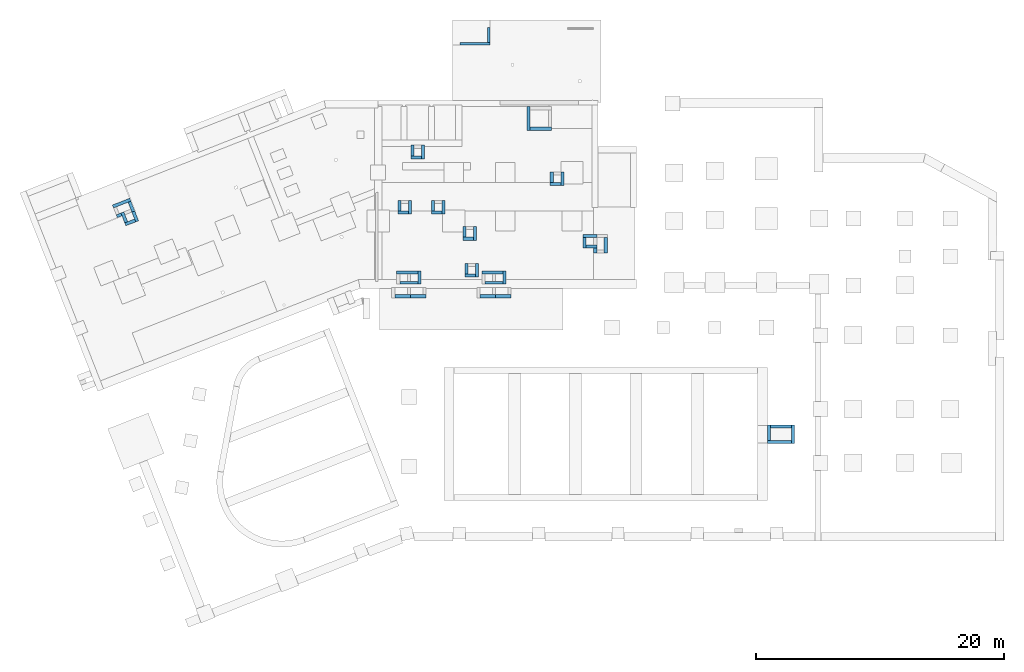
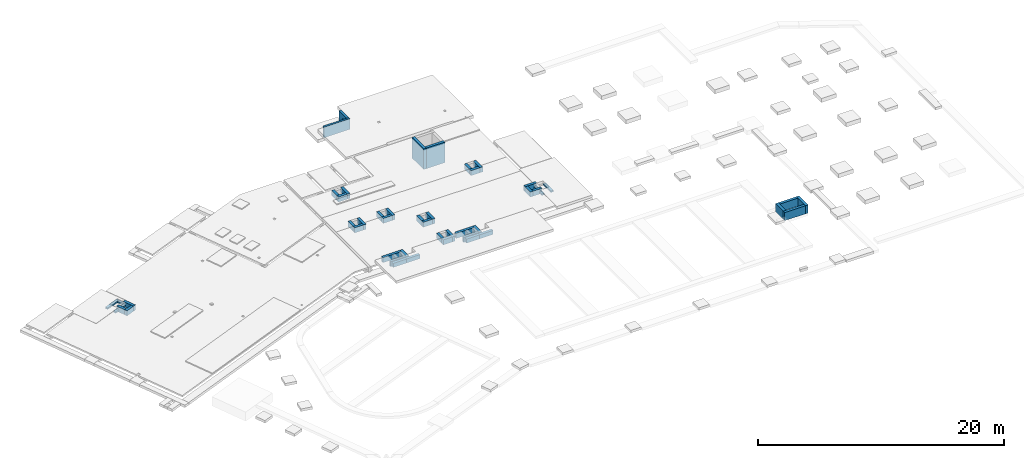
# One storey, part 5 of 9: 47 walls, 1 opening.
"""IFC2X3 building model written with IfcOpenShell, lengths in metres."""

import ifcopenshell
import ifcopenshell.guid

model = None  # the IFC model being written
_history = None  # IfcOwnerHistory: only IFC2X3 demands one
_inside = {}  # id of a spatial element -> (the spatial element, [elements in it])
_under = {}  # id of a project, library or spatial element -> (it, [spatial elements below it])
_declared = {}  # id of a project -> (the project, [libraries it declares])
_typed = {}  # id of a type object -> (the type object, [elements of that type])
_made_of = {}  # id of a material, layer set ... -> (it, [elements and type objects made of it])


def new_model(schema):
    """Start an empty IFC model of exactly this schema.

    Asked for "IFC4X3", IfcOpenShell would pick the latest addendum, in which some entities
    have other attributes; the version numbers below select the first issue.
    IFC2X3 requires an IfcOwnerHistory on every rooted entity: one is made here for all.
    """
    global model, _history
    if schema == "IFC4X3":
        model = ifcopenshell.file(schema_version=(4, 3, 0, 0))
    else:
        model = ifcopenshell.file(schema=schema)
    _inside.clear()
    _under.clear()
    _declared.clear()
    _typed.clear()
    _made_of.clear()
    _history = None
    if model.schema == "IFC2X3":
        org = make("IfcOrganization", Name="unknown")
        user = make(
            "IfcPersonAndOrganization",
            ThePerson=make("IfcPerson", FamilyName="unknown"),
            TheOrganization=org,
        )
        app = make(
            "IfcApplication",
            ApplicationDeveloper=org,
            Version="unknown",
            ApplicationFullName="unknown",
            ApplicationIdentifier="unknown",
        )
        _history = make(
            "IfcOwnerHistory",
            OwningUser=user,
            OwningApplication=app,
            ChangeAction="ADDED",
            CreationDate=0,
        )
    return model


def make(cls, **values):
    """One entity of the class cls with the attributes given. An attribute that is None is left unset."""
    return model.create_entity(
        cls, **{name: value for name, value in values.items() if value is not None}
    )


def entity(cls, *values):
    """Any entity or typed value of the class cls, its attributes in the order of the schema. None: left unset."""
    e = model.create_entity(cls)
    for i, value in enumerate(values):
        if value is not None:
            e[i] = value
    return e


def rooted(cls, **values):
    """An entity with a GlobalId (a new one), such as an element, a storey or a relation."""
    return make(cls, GlobalId=ifcopenshell.guid.new(), OwnerHistory=_history, **values)


def si_unit(unit_type, name, prefix=None):
    """IfcSIUnit, for example si_unit("LENGTHUNIT", "METRE", prefix="MILLI")."""
    return make("IfcSIUnit", UnitType=unit_type, Prefix=prefix, Name=name)


def converted_unit(unit_type, name, factor, base, dimensions=None, offset=None):
    """IfcConversionBasedUnit, such as the inch: factor (a typed value) times the base unit."""
    return make(
        "IfcConversionBasedUnit"
        if offset is None
        else "IfcConversionBasedUnitWithOffset",
        ConversionOffset=offset,
        Dimensions=None
        if dimensions is None
        else entity("IfcDimensionalExponents", *dimensions),
        UnitType=unit_type,
        Name=name,
        ConversionFactor=make(
            "IfcMeasureWithUnit", ValueComponent=factor, UnitComponent=base
        ),
    )


def assignment(units):
    """IfcUnitAssignment: the units of a project."""
    return None if units is None else make("IfcUnitAssignment", Units=units)


def point(xyz):
    """IfcCartesianPoint."""
    return None if xyz is None else make("IfcCartesianPoint", Coordinates=xyz)


def direction(xyz):
    """IfcDirection."""
    return None if xyz is None else make("IfcDirection", DirectionRatios=xyz)


def frame(location, z_axis=None, x_axis=None):
    """IfcAxis2Placement3D, a coordinate frame: its origin and axes. An axis left out is left unset."""
    return make(
        "IfcAxis2Placement3D",
        Location=point(location),
        Axis=direction(z_axis),
        RefDirection=direction(x_axis),
    )


def frame_2d(location, x_axis=None):
    """IfcAxis2Placement2D, a coordinate frame in the plane: its origin and x axis."""
    return make(
        "IfcAxis2Placement2D", Location=point(location), RefDirection=direction(x_axis)
    )


def origin():
    """The frame at (0, 0, 0) with its axes left unset."""
    return frame((0.0, 0.0, 0.0))


def origin_with_axes():
    """The frame at (0, 0, 0) with the z axis (0, 0, 1) and the x axis (1, 0, 0) written out."""
    return frame((0.0, 0.0, 0.0), z_axis=(0.0, 0.0, 1.0), x_axis=(1.0, 0.0, 0.0))


def place(relative_to, where):
    """IfcLocalPlacement: puts the frame where relative to a parent placement (None: the world)."""
    return make(
        "IfcLocalPlacement", PlacementRelTo=relative_to, RelativePlacement=where
    )


def context(
    kind, dimensions, precision=None, world=None, true_north=None, identifier=None
):
    """IfcGeometricRepresentationContext, for example the 3D "Model" context."""
    return make(
        "IfcGeometricRepresentationContext",
        ContextIdentifier=identifier,
        ContextType=kind,
        CoordinateSpaceDimension=dimensions,
        Precision=precision,
        WorldCoordinateSystem=world,
        TrueNorth=true_north,
    )


def subcontext(parent, identifier, kind, view, scale=None):
    """IfcGeometricRepresentationSubContext, for example "Body" below "Model"."""
    return make(
        "IfcGeometricRepresentationSubContext",
        ContextIdentifier=identifier,
        ContextType=kind,
        ParentContext=parent,
        TargetScale=scale,
        TargetView=view,
    )


def project(units=None, contexts=None):
    """IfcProject with its units and contexts."""
    return rooted(
        "IfcProject",
        Name="project",
        RepresentationContexts=contexts,
        UnitsInContext=assignment(units),
    )


def spatial(cls, under=None, at=None, **own):
    """A site, building, storey or space (cls), placed at a placement, below another one or the project."""
    s = rooted(cls, ObjectPlacement=at, **own)
    if under is not None:
        _under.setdefault(under.id(), (under, []))[1].append(s)
    return s


def polyline(points):
    """IfcPolyline through the points."""
    return make("IfcPolyline", Points=[point(p) for p in points])


def profile(cls, at=None, kind="AREA", **sizes):
    """A parametric profile (cls). Its sizes go by their IFC names, for example OverallWidth=200.0."""
    return make(cls, ProfileType=kind, Position=at, **sizes)


def rectangle(**sizes):
    """IfcRectangleProfileDef."""
    return profile("IfcRectangleProfileDef", **sizes)


def outline(outer, holes=None, kind="AREA"):
    """IfcArbitraryClosedProfileDef: a profile drawn as a closed curve; with holes, ...WithVoids."""
    if holes is None:
        return make("IfcArbitraryClosedProfileDef", ProfileType=kind, OuterCurve=outer)
    return make(
        "IfcArbitraryProfileDefWithVoids",
        ProfileType=kind,
        OuterCurve=outer,
        InnerCurves=holes,
    )


def extrude(swept, where, along, depth):
    """IfcExtrudedAreaSolid: the profile swept, set in the frame where, extruded along a direction by depth."""
    return make(
        "IfcExtrudedAreaSolid",
        SweptArea=swept,
        Position=where,
        ExtrudedDirection=direction(along),
        Depth=depth,
    )


def shape(context_of_items, identifier, shape_type, items):
    """IfcShapeRepresentation: the items that make up one representation, for example the "Body"."""
    return make(
        "IfcShapeRepresentation",
        ContextOfItems=context_of_items,
        RepresentationIdentifier=identifier,
        RepresentationType=shape_type,
        Items=items,
    )


def material(Name=None, Category=None):
    """IfcMaterial."""
    return make("IfcMaterial", Name=Name, Category=Category)


def layer(
    of_material, thickness, ventilated=None, Name=None, Category=None, Priority=None
):
    """IfcMaterialLayer: one layer of a wall or slab, of a material (None: an air gap)."""
    return make(
        "IfcMaterialLayer",
        Material=of_material,
        LayerThickness=thickness,
        IsVentilated=ventilated,
        Name=Name,
        Category=Category,
        Priority=Priority,
    )


def layer_set(layers, Name=None):
    """IfcMaterialLayerSet."""
    return make("IfcMaterialLayerSet", MaterialLayers=layers, LayerSetName=Name)


def layer_usage(for_layer_set, set_direction, sense, offset, extent=None):
    """IfcMaterialLayerSetUsage: how a layer set lies in its element."""
    return make(
        "IfcMaterialLayerSetUsage",
        ForLayerSet=for_layer_set,
        LayerSetDirection=set_direction,
        DirectionSense=sense,
        OffsetFromReferenceLine=offset,
        ReferenceExtent=extent,
    )


def made_of(thing, what):
    """Note that an element or type object is made of a material, layer set ...; save() writes the relation."""
    if what is not None:
        _made_of.setdefault(what.id(), (what, []))[1].append(thing)
    return thing


def element(
    cls,
    number,
    at=None,
    inside=None,
    cuts=None,
    type_object=None,
    material=None,
    context=None,
    identifier="Body",
    shape_type=None,
    held_by="IfcProductDefinitionShape",
    body=None,
    shapes=None,
    **own,
):
    """One element of the class cls, such as IfcWall. Its Tag is "e" and its number.

    at: its placement. inside: the storey or other place that contains it. cuts: it is an
    opening in that element (IfcRelVoidsElement). A single representation is given by context,
    identifier, shape_type and body (its items); several are given by shapes. held_by: the class
    of the entity that holds the representations. save() writes the other relations.
    """
    e = rooted(cls, Tag="e%d" % number, ObjectPlacement=at, **own)
    if body is not None:
        shapes = [shape(context, identifier, shape_type, body)]
    if shapes is not None:
        e.Representation = make(held_by, Representations=shapes)
    if inside is not None:
        _inside.setdefault(inside.id(), (inside, []))[1].append(e)
    if cuts is not None:
        rooted(
            "IfcRelVoidsElement", RelatingBuildingElement=cuts, RelatedOpeningElement=e
        )
    if type_object is not None:
        _typed.setdefault(type_object.id(), (type_object, []))[1].append(e)
    return made_of(e, material)


def aggregate(whole, parts):
    """IfcRelAggregates: a whole, such as a stair, and the parts it consists of."""
    return rooted("IfcRelAggregates", RelatingObject=whole, RelatedObjects=parts)


def save(model, path):
    """Write the relations noted so far, then the file.

    IfcRelAggregates (storeys below a building ...), IfcRelContainedInSpatialStructure (elements
    in a storey), IfcRelDefinesByType, IfcRelAssociatesMaterial and IfcRelDeclares: one each for
    every whole, place, type object, material and project.
    """
    for whole, parts in _under.values():
        aggregate(whole, parts)
    for where, things in _inside.values():
        rooted(
            "IfcRelContainedInSpatialStructure",
            RelatedElements=things,
            RelatingStructure=where,
        )
    for kind, things in _typed.values():
        rooted("IfcRelDefinesByType", RelatedObjects=things, RelatingType=kind)
    for what, things in _made_of.values():
        rooted("IfcRelAssociatesMaterial", RelatedObjects=things, RelatingMaterial=what)
    for by, libraries in _declared.values():
        rooted("IfcRelDeclares", RelatingContext=by, RelatedDefinitions=libraries)
    model.write(path)


model = new_model("IFC2X3")

# Units and contexts
model_context = context("Model", 3, precision=1e-05, world=origin(), true_north=direction((-0.407059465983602, -0.913401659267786)))
body_context = subcontext(model_context, "Body", "Model", "MODEL_VIEW")
ifc_project = project(units=[si_unit("LENGTHUNIT", "METRE"), si_unit("AREAUNIT", "SQUARE_METRE"), si_unit("VOLUMEUNIT", "CUBIC_METRE"), si_unit("MASSUNIT", "GRAM", prefix="KILO"), converted_unit("PLANEANGLEUNIT", "DEGREE", entity("IfcPlaneAngleMeasure", 0.0174532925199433), si_unit("PLANEANGLEUNIT", "RADIAN"), dimensions=[0, 0, 0, 0, 0, 0, 0])], contexts=[model_context])

# Site, buildings, storey
site_placement = place(None, origin())
site = spatial("IfcSite", under=ifc_project, at=site_placement, Name="Site", CompositionType="ELEMENT")
building_1_placement = place(site_placement, origin())
building_1 = spatial("IfcBuilding", under=site, at=building_1_placement, Name="Site", CompositionType="COMPLEX")
building_2_placement = place(building_1_placement, origin())
building_2 = spatial("IfcBuilding", under=building_1, at=building_2_placement, Name="Bâtiments", CompositionType="ELEMENT")
storey_placement = place(building_2_placement, frame((0.0, 0.0, -7.1)))
storey = spatial("IfcBuildingStorey", under=building_2, at=storey_placement, Name="FONDATIONS", CompositionType="ELEMENT", Elevation=-7.1)

# Walls
ifc_material_1 = material(Name="Béton")
ifc_layer_1 = layer(ifc_material_1, 0.25)
ifc_layer_set_1 = layer_set([ifc_layer_1])
ifc_layer_usage_1 = layer_usage(ifc_layer_set_1, "AXIS2", "POSITIVE", 0.0)
wall_1_placement = place(storey_placement, frame((8.25624928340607, 0.661386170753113, 1.9), z_axis=(0.0, 0.0, 1.0), x_axis=(-0.365246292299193, 0.930910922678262, 0.0)))
element("IfcWallStandardCase", 1, at=wall_1_placement, inside=storey, material=ifc_layer_usage_1, context=body_context, shape_type="SweptSolid", body=[
    extrude(rectangle(XDim=0.85, YDim=0.25, at=frame_2d((0.425, 0.125), x_axis=(1.0, 0.0))), origin_with_axes(), (0.0, 0.0, 1.0), 0.15),
])
ifc_material_2 = material(Name="Béton")
ifc_layer_2 = layer(ifc_material_2, 0.25)
ifc_layer_set_2 = layer_set([ifc_layer_2])
ifc_layer_usage_2 = layer_usage(ifc_layer_set_2, "AXIS2", "POSITIVE", 0.0)
wall_2_placement = place(storey_placement, frame((45.2422690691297, -1.24454289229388, 1.9), z_axis=(0.0, 0.0, 1.0), x_axis=(0.0, -1.0, 0.0)))
element("IfcWallStandardCase", 2, at=wall_2_placement, inside=storey, material=ifc_layer_usage_2, context=body_context, shape_type="SweptSolid", body=[
    extrude(rectangle(XDim=1.5, YDim=0.25, at=frame_2d((0.75, 0.125), x_axis=(1.0, 0.0))), origin_with_axes(), (0.0, 0.0, 1.0), 0.15),
])
ifc_material_3 = material(Name="Béton")
ifc_layer_3 = layer(ifc_material_3, 0.250000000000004)
ifc_layer_set_3 = layer_set([ifc_layer_3])
ifc_layer_usage_3 = layer_usage(ifc_layer_set_3, "AXIS2", "POSITIVE", 0.0)
wall_3_placement = place(storey_placement, frame((30.4688861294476, -6.08888962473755, 2.55), z_axis=(0.0, 0.0, 1.0), x_axis=(-1.0, 0.0, 0.0)))
element("IfcWallStandardCase", 3, at=wall_3_placement, inside=storey, material=ifc_layer_usage_3, context=body_context, shape_type="SweptSolid", body=[
    extrude(rectangle(XDim=1.25, YDim=0.250000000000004, at=frame_2d((0.625000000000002, 0.125000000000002), x_axis=(1.0, 0.0))), origin_with_axes(), (0.0, 0.0, 1.0), 0.4),
])
ifc_material_4 = material(Name="Béton")
ifc_layer_4 = layer(ifc_material_4, 0.250000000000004)
ifc_layer_set_4 = layer_set([ifc_layer_4])
ifc_layer_usage_4 = layer_usage(ifc_layer_set_4, "AXIS2", "POSITIVE", 0.0)
wall_4_placement = place(storey_placement, frame((37.3340005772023, -6.08888962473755, 2.55), z_axis=(0.0, 0.0, 1.0), x_axis=(-1.0, 0.0, 0.0)))
element("IfcWallStandardCase", 4, at=wall_4_placement, inside=storey, material=ifc_layer_usage_4, context=body_context, shape_type="SweptSolid", body=[
    extrude(rectangle(XDim=1.25, YDim=0.250000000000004, at=frame_2d((0.625, 0.125000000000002), x_axis=(1.0, 0.0))), origin_with_axes(), (0.0, 0.0, 1.0), 0.4),
])
ifc_material_5 = material(Name="Béton")
ifc_layer_5 = layer(ifc_material_5, 0.250000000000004)
ifc_layer_set_5 = layer_set([ifc_layer_5])
ifc_layer_usage_5 = layer_usage(ifc_layer_set_5, "AXIS2", "POSITIVE", 0.0)
wall_5_placement = place(storey_placement, frame((38.5840005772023, -6.08842566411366, 2.55), z_axis=(0.0, 0.0, 1.0), x_axis=(-1.0, 0.0, 0.0)))
element("IfcWallStandardCase", 5, at=wall_5_placement, inside=storey, material=ifc_layer_usage_5, context=body_context, shape_type="SweptSolid", body=[
    extrude(rectangle(XDim=1.25, YDim=0.250000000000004, at=frame_2d((0.625, 0.125000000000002), x_axis=(1.0, 0.0))), origin_with_axes(), (0.0, 0.0, 1.0), 0.4),
])

# Wall, opening
ifc_material_6 = material(Name="Béton")
ifc_layer_6 = layer(ifc_material_6, 0.2)
ifc_layer_set_6 = layer_set([ifc_layer_6])
ifc_layer_usage_6 = layer_usage(ifc_layer_set_6, "AXIS2", "POSITIVE", 0.0)
wall_6_placement = place(storey_placement, frame((36.6980907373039, 15.4502841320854, 1.25), z_axis=(0.0, 0.0, 1.0), x_axis=(0.0, -1.0, 0.0)))
wall_6 = element("IfcWallStandardCase", 6, at=wall_6_placement, inside=storey, material=ifc_layer_usage_6, context=body_context, shape_type="SweptSolid", body=[
    extrude(rectangle(XDim=1.23, YDim=0.2, at=frame_2d((0.615, 0.1), x_axis=(1.0, 0.0))), origin_with_axes(), (0.0, 0.0, 1.0), 1.05),
])
opening_placement = place(wall_6_placement, frame((0.565000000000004, 0.0, 0.550000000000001), z_axis=(0.0, 1.0, 0.0), x_axis=(0.0, 0.0, 1.0)))
element("IfcOpeningElement", 7, at=opening_placement, cuts=wall_6, Name="Résa.", ObjectType="Opening", context=body_context, shape_type="SweptSolid", body=[
    extrude(outline(polyline([(0.0499999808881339, 0.0), (0.0447735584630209, 0.000273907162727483), (0.0396043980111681, 0.00109262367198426), (0.0345491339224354, 0.0024471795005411), (0.0296631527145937, 0.00432273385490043), (0.0249999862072, 0.00669873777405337), (0.0206107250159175, 0.00954915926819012), (0.0165434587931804, 0.0128427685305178), (0.0128427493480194, 0.0165434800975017), (0.00954914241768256, 0.0206107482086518), (0.00669872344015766, 0.0250000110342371), (0.00432272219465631, 0.0296631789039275), (0.002447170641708, 0.0345491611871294), (0.00109261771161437, 0.0396044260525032), (0.000273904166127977, 0.0447735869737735), (0.0, 0.0500000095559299), (0.000273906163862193, 0.0552264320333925), (0.00109262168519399, 0.0603955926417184), (0.00244717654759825, 0.0654508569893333), (0.00432272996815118, 0.0703368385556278), (0.00669873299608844, 0.0750000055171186), (0.00954915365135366, 0.0793892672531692), (0.0128427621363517, 0.0834565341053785), (0.0165434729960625, 0.0871572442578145), (0.0206107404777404, 0.090450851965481), (0.0250000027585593, 0.0933012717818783), (0.0296631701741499, 0.0956772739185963), (0.034549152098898, 0.0975528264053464), (0.0396044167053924, 0.0989073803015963), (0.0447735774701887, 0.0997260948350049), (0.0499999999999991, 0.1), (0.0552264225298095, 0.0997260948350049), (0.0603955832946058, 0.0989073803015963), (0.0654508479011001, 0.0975528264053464), (0.0703368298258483, 0.0956772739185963), (0.0749999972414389, 0.0933012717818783), (0.0793892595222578, 0.090450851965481), (0.0834565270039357, 0.0871572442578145), (0.0871572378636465, 0.0834565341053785), (0.0904508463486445, 0.0793892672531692), (0.0933012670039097, 0.0750000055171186), (0.095677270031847, 0.0703368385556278), (0.0975528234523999, 0.0654508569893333), (0.0989073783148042, 0.0603955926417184), (0.099726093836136, 0.0552264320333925), (0.0999999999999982, 0.0500000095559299), (0.0997260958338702, 0.0447735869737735), (0.0989073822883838, 0.0396044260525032), (0.0975528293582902, 0.0345491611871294), (0.0956772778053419, 0.0296631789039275), (0.0933012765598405, 0.0250000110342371), (0.0904508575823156, 0.0206107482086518), (0.0871572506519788, 0.0165434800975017), (0.0834565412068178, 0.0128427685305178), (0.0793892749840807, 0.00954915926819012), (0.0750000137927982, 0.00669873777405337), (0.0703368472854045, 0.00432273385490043), (0.0654508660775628, 0.0024471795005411), (0.0603956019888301, 0.00109262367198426), (0.0552264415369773, 0.000273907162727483), (0.0499999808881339, 0.0)])), origin_with_axes(), (0.0, 0.0, 1.0), 0.2),
])

# Walls
ifc_material_7 = material(Name="Béton")
ifc_layer_7 = layer(ifc_material_7, 0.25)
ifc_layer_set_7 = layer_set([ifc_layer_7])
ifc_layer_usage_7 = layer_usage(ifc_layer_set_7, "AXIS2", "POSITIVE", 0.0)
wall_7_placement = place(storey_placement, frame((6.85988289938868, 0.113516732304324, 1.9), z_axis=(0.0, 0.0, 1.0), x_axis=(0.930910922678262, 0.365246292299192, 0.0)))
element("IfcWallStandardCase", 8, at=wall_7_placement, inside=storey, material=ifc_layer_usage_7, context=body_context, shape_type="SweptSolid", body=[
    extrude(rectangle(XDim=1.25, YDim=0.25, at=frame_2d((0.625000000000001, 0.125), x_axis=(1.0, 0.0))), origin_with_axes(), (0.0, 0.0, 1.0), 0.15),
])
ifc_material_8 = material(Name="Béton")
ifc_layer_8 = layer(ifc_material_8, 0.25)
ifc_layer_set_8 = layer_set([ifc_layer_8])
ifc_layer_usage_8 = layer_usage(ifc_layer_set_8, "AXIS2", "POSITIVE", 0.0)
wall_8_placement = place(storey_placement, frame((7.85447836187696, 1.6853881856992, 1.9), z_axis=(0.0, 0.0, 1.0), x_axis=(-0.930910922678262, -0.365246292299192, 0.0)))
element("IfcWallStandardCase", 9, at=wall_8_placement, inside=storey, material=ifc_layer_usage_8, context=body_context, shape_type="SweptSolid", body=[
    extrude(rectangle(XDim=1.5, YDim=0.25, at=frame_2d((0.750000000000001, 0.125), x_axis=(1.0, 0.0))), origin_with_axes(), (0.0, 0.0, 1.0), 0.15),
])
ifc_material_9 = material(Name="Béton")
ifc_layer_9 = layer(ifc_material_9, 0.250000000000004)
ifc_layer_set_9 = layer_set([ifc_layer_9])
ifc_layer_usage_9 = layer_usage(ifc_layer_set_9, "AXIS2", "POSITIVE", 0.0)
wall_9_placement = place(storey_placement, frame((31.7188861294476, -6.08842566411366, 2.55), z_axis=(0.0, 0.0, 1.0), x_axis=(-1.0, 0.0, 0.0)))
element("IfcWallStandardCase", 10, at=wall_9_placement, inside=storey, material=ifc_layer_usage_9, context=body_context, shape_type="SweptSolid", body=[
    extrude(rectangle(XDim=1.25, YDim=0.250000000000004, at=frame_2d((0.625000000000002, 0.125000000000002), x_axis=(1.0, 0.0))), origin_with_axes(), (0.0, 0.0, 1.0), 0.4),
])
ifc_material_10 = material(Name="Béton")
ifc_layer_10 = layer(ifc_material_10, 0.2)
ifc_layer_set_10 = layer_set([ifc_layer_10])
ifc_layer_usage_10 = layer_usage(ifc_layer_set_10, "AXIS2", "POSITIVE", 0.0)
wall_10_placement = place(storey_placement, frame((36.8980907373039, 14.2202841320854, 1.25), z_axis=(0.0, 0.0, 1.0), x_axis=(-1.0, -7.48555310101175e-16, 0.0)))
element("IfcWallStandardCase", 11, at=wall_10_placement, inside=storey, material=ifc_layer_usage_10, context=body_context, shape_type="SweptSolid", body=[
    extrude(rectangle(XDim=2.43, YDim=0.2, at=frame_2d((1.215, 0.1), x_axis=(1.0, 0.0))), origin_with_axes(), (0.0, 0.0, 1.0), 1.05),
])
ifc_material_11 = material(Name="Béton")
ifc_layer_11 = layer(ifc_material_11, 0.249999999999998)
ifc_layer_set_11 = layer_set([ifc_layer_11])
ifc_layer_usage_11 = layer_usage(ifc_layer_set_11, "AXIS2", "POSITIVE", 0.0)
wall_11_placement = place(storey_placement, frame((8.56670863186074, -0.129888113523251, 1.8), z_axis=(0.0, 0.0, 1.0), x_axis=(-0.365246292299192, 0.930910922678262, 0.0)))
element("IfcWallStandardCase", 12, at=wall_11_placement, inside=storey, material=ifc_layer_usage_11, context=body_context, shape_type="SweptSolid", body=[
    extrude(rectangle(XDim=1.1, YDim=0.249999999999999, at=frame_2d((0.55, 0.124999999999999), x_axis=(1.0, 0.0))), origin_with_axes(), (0.0, 0.0, 1.0), 0.5),
])
ifc_material_12 = material(Name="Béton")
ifc_layer_12 = layer(ifc_material_12, 0.249999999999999)
ifc_layer_set_12 = layer_set([ifc_layer_12])
ifc_layer_usage_12 = layer_usage(ifc_layer_set_12, "AXIS2", "POSITIVE", 0.0)
wall_12_placement = place(storey_placement, frame((7.54270661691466, -0.531659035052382, 1.8), z_axis=(0.0, 0.0, 1.0), x_axis=(0.930910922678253, 0.365246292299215, 0.0)))
element("IfcWallStandardCase", 13, at=wall_12_placement, inside=storey, material=ifc_layer_usage_12, context=body_context, shape_type="SweptSolid", body=[
    extrude(rectangle(XDim=0.850000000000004, YDim=0.249999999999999, at=frame_2d((0.425000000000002, 0.124999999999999), x_axis=(1.0, 0.0))), origin_with_axes(), (0.0, 0.0, 1.0), 0.5),
])
ifc_material_13 = material(Name="Béton")
ifc_layer_13 = layer(ifc_material_13, 0.249999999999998)
ifc_layer_set_13 = layer_set([ifc_layer_13])
ifc_layer_usage_13 = layer_usage(ifc_layer_set_13, "AXIS2", "POSITIVE", 0.0)
wall_13_placement = place(storey_placement, frame((7.14093569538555, 0.492342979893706, 1.8), z_axis=(0.0, 0.0, 1.0), x_axis=(0.365246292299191, -0.930910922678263, 0.0)))
element("IfcWallStandardCase", 14, at=wall_13_placement, inside=storey, material=ifc_layer_usage_13, context=body_context, shape_type="SweptSolid", body=[
    extrude(rectangle(XDim=0.85, YDim=0.249999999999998, at=frame_2d((0.425, 0.124999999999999), x_axis=(1.0, 0.0))), origin_with_axes(), (0.0, 0.0, 1.0), 0.5),
])
ifc_material_14 = material(Name="Béton")
ifc_layer_14 = layer(ifc_material_14, 0.249999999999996)
ifc_layer_set_14 = layer_set([ifc_layer_14])
ifc_layer_usage_14 = layer_usage(ifc_layer_set_14, "AXIS2", "POSITIVE", 0.0)
wall_14_placement = place(storey_placement, frame((31.0701009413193, -4.16843455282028, 1.8), z_axis=(0.0, 0.0, 1.0), x_axis=(-1.0, 2.13998753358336e-15, 0.0)))
element("IfcWallStandardCase", 15, at=wall_14_placement, inside=storey, material=ifc_layer_usage_14, context=body_context, shape_type="SweptSolid", body=[
    extrude(rectangle(XDim=1.7, YDim=0.249999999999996, at=frame_2d((0.850000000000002, 0.124999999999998), x_axis=(1.0, 0.0))), origin_with_axes(), (0.0, 0.0, 1.0), 0.5),
])
ifc_material_15 = material(Name="Béton")
ifc_layer_15 = layer(ifc_material_15, 0.25)
ifc_layer_set_15 = layer_set([ifc_layer_15])
ifc_layer_usage_15 = layer_usage(ifc_layer_set_15, "AXIS2", "POSITIVE", 0.0)
wall_15_placement = place(storey_placement, frame((31.3201009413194, -5.21843455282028, 1.8), z_axis=(0.0, 0.0, 1.0), x_axis=(-1.73237086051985e-14, 1.0, 0.0)))
element("IfcWallStandardCase", 16, at=wall_15_placement, inside=storey, material=ifc_layer_usage_15, context=body_context, shape_type="SweptSolid", body=[
    extrude(rectangle(XDim=1.05000000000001, YDim=0.25, at=frame_2d((0.525000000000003, 0.125), x_axis=(1.0, 0.0))), origin_with_axes(), (0.0, 0.0, 1.0), 0.5),
])
ifc_material_16 = material(Name="Béton")
ifc_layer_16 = layer(ifc_material_16, 0.2)
ifc_layer_set_16 = layer_set([ifc_layer_16])
ifc_layer_usage_16 = layer_usage(ifc_layer_set_16, "AXIS2", "POSITIVE", 0.0)
wall_16_placement = place(storey_placement, frame((29.6201009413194, -5.21843455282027, 1.8), z_axis=(0.0, 0.0, 1.0), x_axis=(1.0, -3.76342635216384e-15, 0.0)))
element("IfcWallStandardCase", 17, at=wall_16_placement, inside=storey, material=ifc_layer_usage_16, context=body_context, shape_type="SweptSolid", body=[
    extrude(rectangle(XDim=1.45, YDim=0.2, at=frame_2d((0.725, 0.1), x_axis=(1.0, 0.0))), origin_with_axes(), (0.0, 0.0, 1.0), 0.5),
])
ifc_material_17 = material(Name="Béton")
ifc_layer_17 = layer(ifc_material_17, 0.249999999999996)
ifc_layer_set_17 = layer_set([ifc_layer_17])
ifc_layer_usage_17 = layer_usage(ifc_layer_set_17, "AXIS2", "POSITIVE", 0.0)
wall_17_placement = place(storey_placement, frame((37.9301009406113, -4.16843455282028, 1.8), z_axis=(0.0, 0.0, 1.0), x_axis=(-1.0, 2.13998753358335e-15, 0.0)))
element("IfcWallStandardCase", 18, at=wall_17_placement, inside=storey, material=ifc_layer_usage_17, context=body_context, shape_type="SweptSolid", body=[
    extrude(rectangle(XDim=1.70000000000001, YDim=0.249999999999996, at=frame_2d((0.850000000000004, 0.124999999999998), x_axis=(1.0, 0.0))), origin_with_axes(), (0.0, 0.0, 1.0), 0.5),
])
ifc_material_18 = material(Name="Béton")
ifc_layer_18 = layer(ifc_material_18, 0.25)
ifc_layer_set_18 = layer_set([ifc_layer_18])
ifc_layer_usage_18 = layer_usage(ifc_layer_set_18, "AXIS2", "POSITIVE", 0.0)
wall_18_placement = place(storey_placement, frame((38.1801009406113, -5.21843455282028, 1.8), z_axis=(0.0, 0.0, 1.0), x_axis=(-1.38589668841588e-14, 1.0, 0.0)))
element("IfcWallStandardCase", 19, at=wall_18_placement, inside=storey, material=ifc_layer_usage_18, context=body_context, shape_type="SweptSolid", body=[
    extrude(rectangle(XDim=1.05000000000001, YDim=0.25, at=frame_2d((0.525000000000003, 0.125), x_axis=(1.0, 0.0))), origin_with_axes(), (0.0, 0.0, 1.0), 0.5),
])
ifc_material_19 = material(Name="Béton")
ifc_layer_19 = layer(ifc_material_19, 0.2)
ifc_layer_set_19 = layer_set([ifc_layer_19])
ifc_layer_usage_19 = layer_usage(ifc_layer_set_19, "AXIS2", "POSITIVE", 0.0)
wall_19_placement = place(storey_placement, frame((36.4801009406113, -5.21843455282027, 1.8), z_axis=(0.0, 0.0, 1.0), x_axis=(1.0, -3.76342635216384e-15, 0.0)))
element("IfcWallStandardCase", 20, at=wall_19_placement, inside=storey, material=ifc_layer_usage_19, context=body_context, shape_type="SweptSolid", body=[
    extrude(rectangle(XDim=1.45, YDim=0.2, at=frame_2d((0.725, 0.1), x_axis=(1.0, 0.0))), origin_with_axes(), (0.0, 0.0, 1.0), 0.5),
])
ifc_material_20 = material(Name="Béton")
ifc_layer_20 = layer(ifc_material_20, 0.249999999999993)
ifc_layer_set_20 = layer_set([ifc_layer_20])
ifc_layer_usage_20 = layer_usage(ifc_layer_set_20, "AXIS2", "POSITIVE", 0.0)
wall_20_placement = place(storey_placement, frame((35.9700869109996, -4.67840873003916, 1.8), z_axis=(0.0, 0.0, 1.0), x_axis=(1.98435207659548e-14, 1.0, 0.0)))
element("IfcWallStandardCase", 21, at=wall_20_placement, inside=storey, material=ifc_layer_usage_20, context=body_context, shape_type="SweptSolid", body=[
    extrude(rectangle(XDim=1.1, YDim=0.249999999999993, at=frame_2d((0.55, 0.124999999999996), x_axis=(1.0, 0.0))), origin_with_axes(), (0.0, 0.0, 1.0), 0.5),
])
ifc_material_21 = material(Name="Béton")
ifc_layer_21 = layer(ifc_material_21, 0.25)
ifc_layer_set_21 = layer_set([ifc_layer_21])
ifc_layer_usage_21 = layer_usage(ifc_layer_set_21, "AXIS2", "POSITIVE", 0.0)
wall_21_placement = place(storey_placement, frame((34.8700869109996, -4.67840873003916, 1.8), z_axis=(0.0, 0.0, 1.0), x_axis=(1.0, 4.27997506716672e-15, 0.0)))
element("IfcWallStandardCase", 22, at=wall_21_placement, inside=storey, material=ifc_layer_usage_21, context=body_context, shape_type="SweptSolid", body=[
    extrude(rectangle(XDim=0.85, YDim=0.25, at=frame_2d((0.425, 0.125), x_axis=(1.0, 0.0))), origin_with_axes(), (0.0, 0.0, 1.0), 0.5),
])
ifc_material_22 = material(Name="Béton")
ifc_layer_22 = layer(ifc_material_22, 0.249999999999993)
ifc_layer_set_22 = layer_set([ifc_layer_22])
ifc_layer_usage_22 = layer_usage(ifc_layer_set_22, "AXIS2", "POSITIVE", 0.0)
wall_22_placement = place(storey_placement, frame((34.8700869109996, -3.57840873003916, 1.8), z_axis=(0.0, 0.0, 1.0), x_axis=(-2.56798504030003e-14, -1.0, 0.0)))
element("IfcWallStandardCase", 23, at=wall_22_placement, inside=storey, material=ifc_layer_usage_22, context=body_context, shape_type="SweptSolid", body=[
    extrude(rectangle(XDim=0.850000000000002, YDim=0.249999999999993, at=frame_2d((0.425000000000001, 0.124999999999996), x_axis=(1.0, 0.0))), origin_with_axes(), (0.0, 0.0, 1.0), 0.5),
])
ifc_material_23 = material(Name="Béton")
ifc_layer_23 = layer(ifc_material_23, 0.249999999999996)
ifc_layer_set_23 = layer_set([ifc_layer_23])
ifc_layer_usage_23 = layer_usage(ifc_layer_set_23, "AXIS2", "POSITIVE", 0.0)
wall_23_placement = place(storey_placement, frame((30.5621650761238, 0.401724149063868, 1.8), z_axis=(0.0, 0.0, 1.0), x_axis=(1.65362673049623e-14, 1.0, 0.0)))
element("IfcWallStandardCase", 24, at=wall_23_placement, inside=storey, material=ifc_layer_usage_23, context=body_context, shape_type="SweptSolid", body=[
    extrude(rectangle(XDim=1.1, YDim=0.249999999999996, at=frame_2d((0.55, 0.124999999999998), x_axis=(1.0, 0.0))), origin_with_axes(), (0.0, 0.0, 1.0), 0.5),
])
ifc_material_24 = material(Name="Béton")
ifc_layer_24 = layer(ifc_material_24, 0.25)
ifc_layer_set_24 = layer_set([ifc_layer_24])
ifc_layer_usage_24 = layer_usage(ifc_layer_set_24, "AXIS2", "POSITIVE", 0.0)
wall_24_placement = place(storey_placement, frame((29.4621650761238, 0.40172414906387, 1.8), z_axis=(0.0, 0.0, 1.0), x_axis=(1.0, 4.2799750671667e-15, 0.0)))
element("IfcWallStandardCase", 25, at=wall_24_placement, inside=storey, material=ifc_layer_usage_24, context=body_context, shape_type="SweptSolid", body=[
    extrude(rectangle(XDim=0.850000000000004, YDim=0.25, at=frame_2d((0.425000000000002, 0.125), x_axis=(1.0, 0.0))), origin_with_axes(), (0.0, 0.0, 1.0), 0.5),
])
ifc_material_25 = material(Name="Béton")
ifc_layer_25 = layer(ifc_material_25, 0.249999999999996)
ifc_layer_set_25 = layer_set([ifc_layer_25])
ifc_layer_usage_25 = layer_usage(ifc_layer_set_25, "AXIS2", "POSITIVE", 0.0)
wall_25_placement = place(storey_placement, frame((29.4621650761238, 1.50172414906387, 1.8), z_axis=(0.0, 0.0, 1.0), x_axis=(-2.13998753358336e-14, -1.0, 0.0)))
element("IfcWallStandardCase", 26, at=wall_25_placement, inside=storey, material=ifc_layer_usage_25, context=body_context, shape_type="SweptSolid", body=[
    extrude(rectangle(XDim=0.850000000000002, YDim=0.249999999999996, at=frame_2d((0.425000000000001, 0.124999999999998), x_axis=(1.0, 0.0))), origin_with_axes(), (0.0, 0.0, 1.0), 0.5),
])
ifc_material_26 = material(Name="Béton")
ifc_layer_26 = layer(ifc_material_26, 0.249999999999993)
ifc_layer_set_26 = layer_set([ifc_layer_26])
ifc_layer_usage_26 = layer_usage(ifc_layer_set_26, "AXIS2", "POSITIVE", 0.0)
wall_26_placement = place(storey_placement, frame((33.2621650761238, 0.401724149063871, 1.8), z_axis=(0.0, 0.0, 1.0), x_axis=(1.98435207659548e-14, 1.0, 0.0)))
element("IfcWallStandardCase", 27, at=wall_26_placement, inside=storey, material=ifc_layer_usage_26, context=body_context, shape_type="SweptSolid", body=[
    extrude(rectangle(XDim=1.1, YDim=0.249999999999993, at=frame_2d((0.55, 0.124999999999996), x_axis=(1.0, 0.0))), origin_with_axes(), (0.0, 0.0, 1.0), 0.5),
])
ifc_material_27 = material(Name="Béton")
ifc_layer_27 = layer(ifc_material_27, 0.25)
ifc_layer_set_27 = layer_set([ifc_layer_27])
ifc_layer_usage_27 = layer_usage(ifc_layer_set_27, "AXIS2", "POSITIVE", 0.0)
wall_27_placement = place(storey_placement, frame((32.1621650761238, 0.401724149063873, 1.8), z_axis=(0.0, 0.0, 1.0), x_axis=(1.0, 4.27997506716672e-15, 0.0)))
element("IfcWallStandardCase", 28, at=wall_27_placement, inside=storey, material=ifc_layer_usage_27, context=body_context, shape_type="SweptSolid", body=[
    extrude(rectangle(XDim=0.85, YDim=0.25, at=frame_2d((0.425, 0.125), x_axis=(1.0, 0.0))), origin_with_axes(), (0.0, 0.0, 1.0), 0.5),
])
ifc_material_28 = material(Name="Béton")
ifc_layer_28 = layer(ifc_material_28, 0.249999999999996)
ifc_layer_set_28 = layer_set([ifc_layer_28])
ifc_layer_usage_28 = layer_usage(ifc_layer_set_28, "AXIS2", "POSITIVE", 0.0)
wall_28_placement = place(storey_placement, frame((32.1621650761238, 1.50172414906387, 1.8), z_axis=(0.0, 0.0, 1.0), x_axis=(-2.13998753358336e-14, -1.0, 0.0)))
element("IfcWallStandardCase", 29, at=wall_28_placement, inside=storey, material=ifc_layer_usage_28, context=body_context, shape_type="SweptSolid", body=[
    extrude(rectangle(XDim=0.850000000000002, YDim=0.249999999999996, at=frame_2d((0.425000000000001, 0.124999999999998), x_axis=(1.0, 0.0))), origin_with_axes(), (0.0, 0.0, 1.0), 0.5),
])
ifc_material_29 = material(Name="Béton")
ifc_layer_29 = layer(ifc_material_29, 0.249999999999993)
ifc_layer_set_29 = layer_set([ifc_layer_29])
ifc_layer_usage_29 = layer_usage(ifc_layer_set_29, "AXIS2", "POSITIVE", 0.0)
wall_29_placement = place(storey_placement, frame((35.8124715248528, -1.70370520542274, 1.8), z_axis=(0.0, 0.0, 1.0), x_axis=(1.98435207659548e-14, 1.0, 0.0)))
element("IfcWallStandardCase", 30, at=wall_29_placement, inside=storey, material=ifc_layer_usage_29, context=body_context, shape_type="SweptSolid", body=[
    extrude(rectangle(XDim=1.1, YDim=0.249999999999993, at=frame_2d((0.55, 0.124999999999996), x_axis=(1.0, 0.0))), origin_with_axes(), (0.0, 0.0, 1.0), 0.5),
])
ifc_material_30 = material(Name="Béton")
ifc_layer_30 = layer(ifc_material_30, 0.25)
ifc_layer_set_30 = layer_set([ifc_layer_30])
ifc_layer_usage_30 = layer_usage(ifc_layer_set_30, "AXIS2", "POSITIVE", 0.0)
wall_30_placement = place(storey_placement, frame((34.7124715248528, -1.70370520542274, 1.8), z_axis=(0.0, 0.0, 1.0), x_axis=(1.0, 4.27997506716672e-15, 0.0)))
element("IfcWallStandardCase", 31, at=wall_30_placement, inside=storey, material=ifc_layer_usage_30, context=body_context, shape_type="SweptSolid", body=[
    extrude(rectangle(XDim=0.85, YDim=0.25, at=frame_2d((0.425, 0.125), x_axis=(1.0, 0.0))), origin_with_axes(), (0.0, 0.0, 1.0), 0.5),
])
ifc_material_31 = material(Name="Béton")
ifc_layer_31 = layer(ifc_material_31, 0.249999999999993)
ifc_layer_set_31 = layer_set([ifc_layer_31])
ifc_layer_usage_31 = layer_usage(ifc_layer_set_31, "AXIS2", "POSITIVE", 0.0)
wall_31_placement = place(storey_placement, frame((34.7124715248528, -0.603705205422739, 1.8), z_axis=(0.0, 0.0, 1.0), x_axis=(-2.56798504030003e-14, -1.0, 0.0)))
element("IfcWallStandardCase", 32, at=wall_31_placement, inside=storey, material=ifc_layer_usage_31, context=body_context, shape_type="SweptSolid", body=[
    extrude(rectangle(XDim=0.850000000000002, YDim=0.249999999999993, at=frame_2d((0.425000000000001, 0.124999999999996), x_axis=(1.0, 0.0))), origin_with_axes(), (0.0, 0.0, 1.0), 0.5),
])
ifc_material_32 = material(Name="Béton")
ifc_layer_32 = layer(ifc_material_32, 0.249999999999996)
ifc_layer_set_32 = layer_set([ifc_layer_32])
ifc_layer_usage_32 = layer_usage(ifc_layer_set_32, "AXIS2", "POSITIVE", 0.0)
wall_32_placement = place(storey_placement, frame((31.6044459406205, 4.85835778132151, 1.8), z_axis=(0.0, 0.0, 1.0), x_axis=(1.65362673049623e-14, 1.0, 0.0)))
element("IfcWallStandardCase", 33, at=wall_32_placement, inside=storey, material=ifc_layer_usage_32, context=body_context, shape_type="SweptSolid", body=[
    extrude(rectangle(XDim=1.1, YDim=0.249999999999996, at=frame_2d((0.55, 0.124999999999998), x_axis=(1.0, 0.0))), origin_with_axes(), (0.0, 0.0, 1.0), 0.5),
])
ifc_material_33 = material(Name="Béton")
ifc_layer_33 = layer(ifc_material_33, 0.25)
ifc_layer_set_33 = layer_set([ifc_layer_33])
ifc_layer_usage_33 = layer_usage(ifc_layer_set_33, "AXIS2", "POSITIVE", 0.0)
wall_33_placement = place(storey_placement, frame((30.5044459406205, 4.85835778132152, 1.8), z_axis=(0.0, 0.0, 1.0), x_axis=(1.0, 4.2799750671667e-15, 0.0)))
element("IfcWallStandardCase", 34, at=wall_33_placement, inside=storey, material=ifc_layer_usage_33, context=body_context, shape_type="SweptSolid", body=[
    extrude(rectangle(XDim=0.850000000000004, YDim=0.25, at=frame_2d((0.425000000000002, 0.125), x_axis=(1.0, 0.0))), origin_with_axes(), (0.0, 0.0, 1.0), 0.5),
])
ifc_material_34 = material(Name="Béton")
ifc_layer_34 = layer(ifc_material_34, 0.249999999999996)
ifc_layer_set_34 = layer_set([ifc_layer_34])
ifc_layer_usage_34 = layer_usage(ifc_layer_set_34, "AXIS2", "POSITIVE", 0.0)
wall_34_placement = place(storey_placement, frame((30.5044459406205, 5.95835778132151, 1.8), z_axis=(0.0, 0.0, 1.0), x_axis=(-2.13998753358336e-14, -1.0, 0.0)))
element("IfcWallStandardCase", 35, at=wall_34_placement, inside=storey, material=ifc_layer_usage_34, context=body_context, shape_type="SweptSolid", body=[
    extrude(rectangle(XDim=0.850000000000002, YDim=0.249999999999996, at=frame_2d((0.425000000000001, 0.124999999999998), x_axis=(1.0, 0.0))), origin_with_axes(), (0.0, 0.0, 1.0), 0.5),
])
ifc_material_35 = material(Name="Béton")
ifc_layer_35 = layer(ifc_material_35, 0.25)
ifc_layer_set_35 = layer_set([ifc_layer_35])
ifc_layer_usage_35 = layer_usage(ifc_layer_set_35, "AXIS2", "POSITIVE", 0.0)
wall_35_placement = place(storey_placement, frame((45.4922690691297, -1.24454289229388, 1.8), z_axis=(0.0, 0.0, 1.0), x_axis=(-1.0, -1.65362673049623e-14, 0.0)))
element("IfcWallStandardCase", 36, at=wall_35_placement, inside=storey, material=ifc_layer_usage_35, context=body_context, shape_type="SweptSolid", body=[
    extrude(rectangle(XDim=1.1, YDim=0.25, at=frame_2d((0.55, 0.125), x_axis=(1.0, 0.0))), origin_with_axes(), (0.0, 0.0, 1.0), 0.5),
])
ifc_material_36 = material(Name="Béton")
ifc_layer_36 = layer(ifc_material_36, 0.249999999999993)
ifc_layer_set_36 = layer_set([ifc_layer_36])
ifc_layer_usage_36 = layer_usage(ifc_layer_set_36, "AXIS2", "POSITIVE", 0.0)
wall_36_placement = place(storey_placement, frame((44.3922690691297, -1.49454289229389, 1.8), z_axis=(0.0, 0.0, 1.0), x_axis=(0.0, -1.0, 0.0)))
element("IfcWallStandardCase", 37, at=wall_36_placement, inside=storey, material=ifc_layer_usage_36, context=body_context, shape_type="SweptSolid", body=[
    extrude(rectangle(XDim=0.850000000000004, YDim=0.249999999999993, at=frame_2d((0.425000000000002, 0.124999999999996), x_axis=(1.0, 0.0))), origin_with_axes(), (0.0, 0.0, 1.0), 0.5),
])
ifc_material_37 = material(Name="Béton")
ifc_layer_37 = layer(ifc_material_37, 0.249999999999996)
ifc_layer_set_37 = layer_set([ifc_layer_37])
ifc_layer_usage_37 = layer_usage(ifc_layer_set_37, "AXIS2", "POSITIVE", 0.0)
wall_37_placement = place(storey_placement, frame((44.6422690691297, -2.34454289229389, 1.8), z_axis=(0.0, 0.0, 1.0), x_axis=(1.0, 2.13998753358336e-14, 0.0)))
element("IfcWallStandardCase", 38, at=wall_37_placement, inside=storey, material=ifc_layer_usage_37, context=body_context, shape_type="SweptSolid", body=[
    extrude(rectangle(XDim=0.85, YDim=0.249999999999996, at=frame_2d((0.425, 0.124999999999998), x_axis=(1.0, 0.0))), origin_with_axes(), (0.0, 0.0, 1.0), 0.5),
])
ifc_material_38 = material(Name="Béton")
ifc_layer_38 = layer(ifc_material_38, 0.249999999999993)
ifc_layer_set_38 = layer_set([ifc_layer_38])
ifc_layer_usage_38 = layer_usage(ifc_layer_set_38, "AXIS2", "POSITIVE", 0.0)
wall_38_placement = place(storey_placement, frame((42.8423208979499, 2.70172912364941, 1.8), z_axis=(0.0, 0.0, 1.0), x_axis=(1.98435207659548e-14, 1.0, 0.0)))
element("IfcWallStandardCase", 39, at=wall_38_placement, inside=storey, material=ifc_layer_usage_38, context=body_context, shape_type="SweptSolid", body=[
    extrude(rectangle(XDim=1.1, YDim=0.249999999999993, at=frame_2d((0.55, 0.124999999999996), x_axis=(1.0, 0.0))), origin_with_axes(), (0.0, 0.0, 1.0), 0.5),
])
ifc_material_39 = material(Name="Béton")
ifc_layer_39 = layer(ifc_material_39, 0.25)
ifc_layer_set_39 = layer_set([ifc_layer_39])
ifc_layer_usage_39 = layer_usage(ifc_layer_set_39, "AXIS2", "POSITIVE", 0.0)
wall_39_placement = place(storey_placement, frame((41.7423208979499, 2.70172912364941, 1.8), z_axis=(0.0, 0.0, 1.0), x_axis=(1.0, 4.27997506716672e-15, 0.0)))
element("IfcWallStandardCase", 40, at=wall_39_placement, inside=storey, material=ifc_layer_usage_39, context=body_context, shape_type="SweptSolid", body=[
    extrude(rectangle(XDim=0.85, YDim=0.25, at=frame_2d((0.425, 0.125), x_axis=(1.0, 0.0))), origin_with_axes(), (0.0, 0.0, 1.0), 0.5),
])
ifc_material_40 = material(Name="Béton")
ifc_layer_40 = layer(ifc_material_40, 0.249999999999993)
ifc_layer_set_40 = layer_set([ifc_layer_40])
ifc_layer_usage_40 = layer_usage(ifc_layer_set_40, "AXIS2", "POSITIVE", 0.0)
wall_40_placement = place(storey_placement, frame((41.74232089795, 3.80172912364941, 1.8), z_axis=(0.0, 0.0, 1.0), x_axis=(-2.56798504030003e-14, -1.0, 0.0)))
element("IfcWallStandardCase", 41, at=wall_40_placement, inside=storey, material=ifc_layer_usage_40, context=body_context, shape_type="SweptSolid", body=[
    extrude(rectangle(XDim=0.850000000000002, YDim=0.249999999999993, at=frame_2d((0.425000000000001, 0.124999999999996), x_axis=(1.0, 0.0))), origin_with_axes(), (0.0, 0.0, 1.0), 0.5),
])
ifc_material_41 = material(Name="Béton")
ifc_layer_41 = layer(ifc_material_41, 0.249999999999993)
ifc_layer_set_41 = layer_set([ifc_layer_41])
ifc_layer_usage_41 = layer_usage(ifc_layer_set_41, "AXIS2", "POSITIVE", 0.0)
wall_41_placement = place(storey_placement, frame((46.3422690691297, -2.74454289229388, 1.9), z_axis=(0.0, 0.0, 1.0), x_axis=(-5.82076609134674e-15, 1.0, 0.0)))
element("IfcWallStandardCase", 42, at=wall_41_placement, inside=storey, material=ifc_layer_usage_41, context=body_context, shape_type="SweptSolid", body=[
    extrude(rectangle(XDim=1.25, YDim=0.249999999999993, at=frame_2d((0.625, 0.124999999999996), x_axis=(1.0, 0.0))), origin_with_axes(), (0.0, 0.0, 1.0), 0.15),
])
ifc_material_42 = material(Name="Béton")
ifc_layer_42 = layer(ifc_material_42, 0.249999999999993)
ifc_layer_set_42 = layer_set([ifc_layer_42])
ifc_layer_usage_42 = layer_usage(ifc_layer_set_42, "AXIS2", "POSITIVE", 0.0)
wall_42_placement = place(storey_placement, frame((39.8626440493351, 9.06038730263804, 0.36), z_axis=(0.0, 0.0, 1.0), x_axis=(-2.68061596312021e-14, -1.0, 0.0)))
element("IfcWallStandardCase", 43, at=wall_42_placement, inside=storey, material=ifc_layer_usage_42, context=body_context, shape_type="SweptSolid", body=[
    extrude(rectangle(XDim=1.9, YDim=0.249999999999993, at=frame_2d((0.95, 0.124999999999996), x_axis=(1.0, 0.0))), origin_with_axes(), (0.0, 0.0, 1.0), 2.04),
])
ifc_material_43 = material(Name="Béton")
ifc_layer_43 = layer(ifc_material_43, 0.250000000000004)
ifc_layer_set_43 = layer_set([ifc_layer_43])
ifc_layer_usage_43 = layer_usage(ifc_layer_set_43, "AXIS2", "POSITIVE", 0.0)
wall_43_placement = place(storey_placement, frame((40.1126440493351, 7.16038730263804, 0.36), z_axis=(0.0, 0.0, 1.0), x_axis=(1.0, -4.1576900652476e-15, 0.0)))
element("IfcWallStandardCase", 44, at=wall_43_placement, inside=storey, material=ifc_layer_usage_43, context=body_context, shape_type="SweptSolid", body=[
    extrude(rectangle(XDim=1.75000000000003, YDim=0.250000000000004, at=frame_2d((0.875000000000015, 0.125000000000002), x_axis=(1.0, 0.0))), origin_with_axes(), (0.0, 0.0, 1.0), 2.04),
])
ifc_material_44 = material(Name="Béton")
ifc_layer_44 = layer(ifc_material_44, 0.249999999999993)
ifc_layer_set_44 = layer_set([ifc_layer_44])
ifc_layer_usage_44 = layer_usage(ifc_layer_set_44, "AXIS2", "POSITIVE", 0.0)
wall_44_placement = place(storey_placement, frame((59.233384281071, -16.5743058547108, 3.8), z_axis=(0.0, 0.0, 1.0), x_axis=(-2.32830643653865e-14, -1.0, 0.0)))
element("IfcWallStandardCase", 45, at=wall_44_placement, inside=storey, material=ifc_layer_usage_44, context=body_context, shape_type="SweptSolid", body=[
    extrude(rectangle(XDim=1.25000000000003, YDim=0.249999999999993, at=frame_2d((0.625000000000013, 0.124999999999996), x_axis=(1.0, 0.0))), origin_with_axes(), (0.0, 0.0, 1.0), 0.8),
])
ifc_material_45 = material(Name="Béton")
ifc_layer_45 = layer(ifc_material_45, 0.250000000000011)
ifc_layer_set_45 = layer_set([ifc_layer_45])
ifc_layer_usage_45 = layer_usage(ifc_layer_set_45, "AXIS2", "POSITIVE", 0.0)
wall_45_placement = place(storey_placement, frame((59.233384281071, -18.0743058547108, 3.8), z_axis=(0.0, 0.0, 1.0), x_axis=(1.0, 7.46252062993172e-15, 0.0)))
element("IfcWallStandardCase", 46, at=wall_45_placement, inside=storey, material=ifc_layer_usage_45, context=body_context, shape_type="SweptSolid", body=[
    extrude(rectangle(XDim=1.95, YDim=0.250000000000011, at=frame_2d((0.975, 0.125000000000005), x_axis=(1.0, 0.0))), origin_with_axes(), (0.0, 0.0, 1.0), 0.8),
])
ifc_material_46 = material(Name="Béton")
ifc_layer_46 = layer(ifc_material_46, 0.249999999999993)
ifc_layer_set_46 = layer_set([ifc_layer_46])
ifc_layer_usage_46 = layer_usage(ifc_layer_set_46, "AXIS2", "POSITIVE", 0.0)
wall_46_placement = place(storey_placement, frame((61.433384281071, -18.0743058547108, 3.8), z_axis=(0.0, 0.0, 1.0), x_axis=(1.94025536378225e-14, 1.0, 0.0)))
element("IfcWallStandardCase", 47, at=wall_46_placement, inside=storey, material=ifc_layer_usage_46, context=body_context, shape_type="SweptSolid", body=[
    extrude(rectangle(XDim=1.5, YDim=0.249999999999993, at=frame_2d((0.75, 0.124999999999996), x_axis=(1.0, 0.0))), origin_with_axes(), (0.0, 0.0, 1.0), 0.8),
])
ifc_material_47 = material(Name="Béton")
ifc_layer_47 = layer(ifc_material_47, 0.249999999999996)
ifc_layer_set_47 = layer_set([ifc_layer_47])
ifc_layer_usage_47 = layer_usage(ifc_layer_set_47, "AXIS2", "POSITIVE", 0.0)
wall_47_placement = place(storey_placement, frame((61.183384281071, -16.5743058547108, 3.8), z_axis=(0.0, 0.0, 1.0), x_axis=(-1.0, 0.0, 0.0)))
element("IfcWallStandardCase", 48, at=wall_47_placement, inside=storey, material=ifc_layer_usage_47, context=body_context, shape_type="SweptSolid", body=[
    extrude(rectangle(XDim=1.70000000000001, YDim=0.249999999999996, at=frame_2d((0.850000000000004, 0.124999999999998), x_axis=(1.0, 0.0))), origin_with_axes(), (0.0, 0.0, 1.0), 0.8),
])

save(model, "model.ifc")
